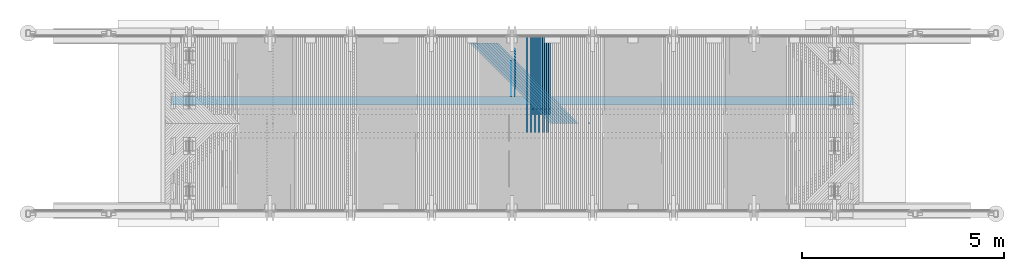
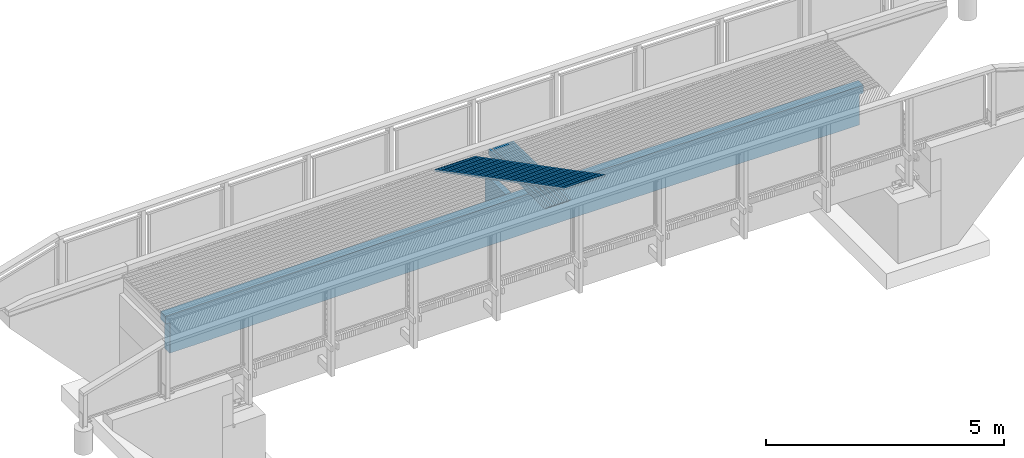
# One storey, part 34 of 65: 27 beams.
"""IFC2X3 building model written with IfcOpenShell, lengths in millimetres."""

from ifc_helpers import new_model, si_unit, frame, origin_with_axes, place, context, subcontext, project, spatial, faceted_brep, material, type_object, element, save


model = new_model("IFC2X3")

# Units and contexts
model_context = context("Model", 3, precision=1e-05, world=origin_with_axes())
body_context = subcontext(model_context, "Body", "Model", "MODEL_VIEW")
ifc_project = project(units=[si_unit("LENGTHUNIT", "METRE", prefix="MILLI"), si_unit("AREAUNIT", "SQUARE_METRE"), si_unit("VOLUMEUNIT", "CUBIC_METRE"), si_unit("MASSUNIT", "GRAM", prefix="KILO"), si_unit("TIMEUNIT", "SECOND"), si_unit("PLANEANGLEUNIT", "RADIAN"), si_unit("SOLIDANGLEUNIT", "STERADIAN"), si_unit("THERMODYNAMICTEMPERATUREUNIT", "DEGREE_CELSIUS"), si_unit("LUMINOUSINTENSITYUNIT", "LUMEN")], contexts=[model_context])

# Site, building, storey
site_placement = place(None, origin_with_axes())
site = spatial("IfcSite", under=ifc_project, at=site_placement, Name="Undefined", CompositionType="ELEMENT")
building_placement = place(site_placement, origin_with_axes())
building = spatial("IfcBuilding", under=site, at=building_placement, Name="Undefined", CompositionType="ELEMENT")
storey_placement = place(building_placement, origin_with_axes())
storey = spatial("IfcBuildingStorey", under=building, at=storey_placement, Name="Undefined", CompositionType="ELEMENT", Elevation=0.0)

# Beams
ifc_material = material(Name="TIMBER/Timber_Undefined")
beam_type_1 = type_object("IfcBeamType", Name="945*140", PredefinedType="NOTDEFINED")
beam_1_placement = place(storey_placement, frame((8000.0, 23937.5, 2542.6979002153), z_axis=(0.0, 0.0, 1.0), x_axis=(0.0, -1.0, 0.0)))
element("IfcBeam", 1, at=beam_1_placement, inside=storey, type_object=beam_type_1, material=ifc_material, Name="PALKKI", ObjectType="945*140", context=body_context, shape_type="Brep", body=[
    faceted_brep([(0.0, 70.0, -472.5), (0.0, 70.0, 472.5), (905.0, 70.0, 472.5), (905.0, 70.0, -472.5), (0.0, -70.0, 472.5), (905.0, -70.0, 472.5), (0.0, -70.0, -472.5), (905.0, -70.0, -472.5)], [[[0, 1, 2, 3]], [[1, 4, 5, 2]], [[4, 6, 7, 5]], [[6, 0, 3, 7]], [[5, 7, 3, 2]], [[6, 4, 1, 0]]]),
])
beam_type_2 = type_object("IfcBeamType", Name="50*50", PredefinedType="NOTDEFINED")
for number, where, z_axis, x_axis, name in (
    (2, (9903.90922166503, 22365.4998996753, 3233.11191274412), (0.707070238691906, 0.706981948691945, -0.0151063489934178), (-0.70714200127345, 0.706948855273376, -0.0131721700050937), "BEAM"),
    (3, (9833.18532878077, 22365.4998996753, 3233.33139353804), (0.707072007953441, 0.706981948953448, -0.0150232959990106), (-0.707140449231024, 0.706948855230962, -0.0132552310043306), "BEAM"),
    (4, (9762.46141060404, 22365.4998996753, 3233.54256705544), (0.707073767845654, 0.706981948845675, -0.0149402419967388), (-0.707138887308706, 0.706948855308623, -0.0133382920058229), "BEAM"),
    (5, (9691.73746811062, 22365.4998996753, 3233.7454332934), (0.707075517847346, 0.706981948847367, -0.0148571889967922), (-0.707137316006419, 0.706948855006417, -0.0134213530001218), "BEAM"),
    (6, (9621.01350227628, 22365.4998996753, 3233.93999224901), (0.707077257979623, 0.706981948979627, -0.0147741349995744), (-0.707135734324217, 0.706948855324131, -0.0135044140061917), "BEAM"),
    (7, (9550.28951407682, 22365.4998996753, 3234.12624391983), (0.707078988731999, 0.706981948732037, -0.0146910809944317), (-0.70713414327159, 0.706948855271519, -0.0135874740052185), "BEAM"),
    (8, (9479.565504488, 22365.4998996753, 3234.30418830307), (0.70708070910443, 0.706981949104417, -0.0146080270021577), (-0.70713254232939, 0.706948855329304, -0.0136705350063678), "BEAM"),
    (9, (9408.8414744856, 22365.4998996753, 3234.4738253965), (0.707082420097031, 0.706981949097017, -0.0145249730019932), (-0.707130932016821, 0.706948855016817, -0.0137535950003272), "BEAM"),
    (10, (9338.11742504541, 22365.4998996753, 3234.63515519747), (0.707084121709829, 0.706981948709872, -0.0144419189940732), (-0.707129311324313, 0.70694885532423, -0.0138366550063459), "BEAM"),
    (11, (9267.39335714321, 22365.4998996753, 3234.78817770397), (0.70708581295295, 0.706981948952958, -0.0143588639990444), (-0.707127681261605, 0.706948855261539, -0.0139197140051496), "BEAM"),
    (12, (9196.66927175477, 22365.4998996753, 3234.93289291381), (0.707087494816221, 0.70698194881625, -0.0142758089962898), (-0.707126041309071, 0.706948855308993, -0.0140027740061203), "BEAM"),
    (13, (9125.94516985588, 22365.4998996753, 3235.06930082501), (0.707089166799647, 0.706981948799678, -0.0141927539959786), (-0.707124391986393, 0.706948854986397, -0.0140858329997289), "BEAM"),
    (14, (9055.22105242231, 22365.4998996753, 3235.1974014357), (0.707090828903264, 0.706981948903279, -0.0141096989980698), (-0.707122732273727, 0.70694885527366, -0.0141688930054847), "BEAM"),
    (15, (8984.49692042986, 22365.4998996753, 3235.31719474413), (0.707092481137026, 0.706981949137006, -0.0140266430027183), (-0.707121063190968, 0.706948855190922, -0.014251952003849), "BEAM"),
):
    element("IfcBeam", number, at=place(storey_placement, frame(where, z_axis=z_axis, x_axis=x_axis)), inside=storey, type_object=beam_type_2, material=ifc_material, Name=name, ObjectType="50*50", context=body_context, shape_type="Brep", body=[
        faceted_brep([(23.5869248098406, 24.9999999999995, -24.9999999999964), (-26.4154158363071, 24.9999999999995, 24.9999999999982), (2802.92643296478, 25.0, 25.0), (2852.92877373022, 25.0000000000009, -25.0), (-25.0011704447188, -25.0, 24.9999999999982), (2804.34067830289, -25.0, 25.0000000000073), (25.0011701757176, -25.0000000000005, -24.9999999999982), (2854.34301907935, -24.9999999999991, -25.0000000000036)], [[[0, 1, 2, 3]], [[1, 4, 5, 2]], [[4, 6, 7, 5]], [[6, 0, 3, 7]], [[5, 7, 3, 2]], [[6, 4, 1, 0]]]),
    ])
beam_type_3 = type_object("IfcBeamType", Name="150*50", PredefinedType="NOTDEFINED")
beam_2_placement = place(storey_placement, frame((8875.35105555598, 24513.4953923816, 3092.51355357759), z_axis=(0.00137347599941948, 0.0199960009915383, 0.999799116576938), x_axis=(2.74690000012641e-05, -0.999800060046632, 0.0199959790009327)))
element("IfcBeam", 16, at=beam_2_placement, inside=storey, type_object=beam_type_3, material=ifc_material, Name="BEAM", ObjectType="150*50", context=body_context, shape_type="Brep", body=[
    faceted_brep([(-1.6778358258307e-07, -24.9999999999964, -74.9999999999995), (-1.6778358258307e-07, 25.0000000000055, -75.0), (2375.00494422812, 25.0000000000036, -75.0), (2375.00494447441, -24.9999999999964, -74.9999999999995), (1.67790858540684e-07, -24.9999999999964, 75.0000000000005), (1.67790858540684e-07, 25.0000000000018, 74.9999999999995), (2150.42515052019, 25.0000000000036, 74.9999999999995), (2510.59248715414, 25.0000000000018, 60.5875433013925), (2510.59248714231, -24.9999999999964, 60.5875430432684), (2150.42514405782, -24.9999999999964, 75.0000000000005)], [[[0, 1, 2, 3]], [[0, 4, 5, 1]], [[2, 1, 5, 6, 7]], [[3, 2, 7, 8]], [[4, 0, 3, 8, 9]], [[5, 4, 9, 6]], [[8, 7, 6, 9]]]),
])
beam_3_placement = place(storey_placement, frame((8925.37102920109, 24513.4953923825, 3092.43652922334), z_axis=(0.00153959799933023, 0.0199960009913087, 0.999798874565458), x_axis=(3.0791000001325e-05, -0.999800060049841, 0.0199959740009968)))
element("IfcBeam", 17, at=beam_3_placement, inside=storey, type_object=beam_type_3, material=ifc_material, Name="BEAM", ObjectType="150*50", context=body_context, shape_type="Brep", body=[
    faceted_brep([(-1.6778358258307e-07, -24.9999999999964, -74.9999999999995), (1.67790858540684e-07, -24.9999999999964, 75.0000000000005), (1.67790858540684e-07, 25.0000000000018, 74.9999999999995), (-1.6778358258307e-07, 25.0000000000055, -75.0), (1789.96936408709, 24.9999999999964, 75.0), (1928.42646328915, 24.9999999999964, -75.0), (1928.42646353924, -25.0, -75.0000000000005), (1789.96936433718, -25.0000000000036, 74.9999999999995)], [[[0, 1, 2, 3]], [[3, 2, 4, 5]], [[0, 3, 5, 6]], [[1, 0, 6, 7]], [[2, 1, 7, 4]], [[5, 4, 7, 6]]]),
])
beam_4_placement = place(storey_placement, frame((8775.33111583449, 24513.4953923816, 3092.65068841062), z_axis=(0.00120735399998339, 0.0199960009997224, 0.999799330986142), x_axis=(2.41470000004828e-05, -0.999800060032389, 0.0199959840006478)))
element("IfcBeam", 18, at=beam_4_placement, inside=storey, type_object=beam_type_3, material=ifc_material, Name="BEAM", ObjectType="150*50", context=body_context, shape_type="Brep", body=[
    faceted_brep([(-1.6778358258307e-07, -24.9999999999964, -74.9999999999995), (-1.6778358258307e-07, 25.0000000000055, -75.0), (2375.00494422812, 25.0000000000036, -75.0), (2375.00494447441, -24.9999999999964, -74.9999999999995), (1.67790858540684e-07, -24.9999999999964, 75.0000000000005), (1.67790858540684e-07, 25.0000000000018, 74.9999999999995), (2150.42515052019, 25.0000000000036, 74.9999999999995), (2510.59248715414, 25.0000000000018, 60.5875433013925), (2510.59248714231, -24.9999999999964, 60.5875430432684), (2150.42514405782, -24.9999999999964, 75.0000000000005)], [[[0, 1, 2, 3]], [[0, 4, 5, 1]], [[2, 1, 5, 6, 7]], [[3, 2, 7, 8]], [[4, 0, 3, 8, 9]], [[5, 4, 9, 6]], [[8, 7, 6, 9]]]),
])
beam_5_placement = place(storey_placement, frame((8825.35110158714, 24513.4953923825, 3092.5819751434), z_axis=(0.00137347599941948, 0.0199960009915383, 0.999799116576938), x_axis=(2.74690000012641e-05, -0.999800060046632, 0.0199959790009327)))
element("IfcBeam", 19, at=beam_5_placement, inside=storey, type_object=beam_type_3, material=ifc_material, Name="BEAM", ObjectType="150*50", context=body_context, shape_type="Brep", body=[
    faceted_brep([(-1.6778358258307e-07, -24.9999999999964, -74.9999999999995), (1.67790858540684e-07, -24.9999999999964, 75.0000000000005), (1.67790858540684e-07, 25.0000000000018, 74.9999999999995), (-1.6778358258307e-07, 25.0000000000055, -75.0), (1789.96936408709, 24.9999999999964, 75.0), (1928.42646328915, 24.9999999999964, -75.0), (1928.42646353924, -25.0, -75.0000000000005), (1789.96936433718, -25.0000000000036, 74.9999999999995)], [[[0, 1, 2, 3]], [[3, 2, 4, 5]], [[0, 3, 5, 6]], [[1, 0, 6, 7]], [[2, 1, 7, 4]], [[5, 4, 7, 6]]]),
])
beam_6_placement = place(storey_placement, frame((8675.31115470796, 24513.4953923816, 3092.77120439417), z_axis=(0.00104123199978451, 0.0199960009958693, 0.99979951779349), x_axis=(2.08240000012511e-05, -0.999800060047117, 0.0199959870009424)))
element("IfcBeam", 20, at=beam_6_placement, inside=storey, type_object=beam_type_3, material=ifc_material, Name="BEAM", ObjectType="150*50", context=body_context, shape_type="Brep", body=[
    faceted_brep([(-1.6778358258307e-07, -24.9999999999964, -74.9999999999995), (-1.6778358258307e-07, 25.0000000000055, -75.0), (2375.00494422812, 25.0000000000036, -75.0), (2375.00494447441, -24.9999999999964, -74.9999999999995), (1.67790858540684e-07, -24.9999999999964, 75.0000000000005), (1.67790858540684e-07, 25.0000000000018, 74.9999999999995), (2150.42515052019, 25.0000000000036, 74.9999999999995), (2510.59248715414, 25.0000000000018, 60.5875433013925), (2510.59248714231, -24.9999999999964, 60.5875430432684), (2150.42514405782, -24.9999999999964, 75.0000000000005)], [[[0, 1, 2, 3]], [[0, 4, 5, 1]], [[2, 1, 5, 6, 7]], [[3, 2, 7, 8]], [[4, 0, 3, 8, 9]], [[5, 4, 9, 6]], [[8, 7, 6, 9]]]),
])
beam_7_placement = place(storey_placement, frame((8725.33115118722, 24513.4953923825, 3092.71080221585), z_axis=(0.00120735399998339, 0.0199960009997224, 0.999799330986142), x_axis=(2.41470000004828e-05, -0.999800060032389, 0.0199959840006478)))
element("IfcBeam", 21, at=beam_7_placement, inside=storey, type_object=beam_type_3, material=ifc_material, Name="BEAM", ObjectType="150*50", context=body_context, shape_type="Brep", body=[
    faceted_brep([(-1.6778358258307e-07, -24.9999999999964, -74.9999999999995), (1.67790858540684e-07, -24.9999999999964, 75.0000000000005), (1.67790858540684e-07, 25.0000000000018, 74.9999999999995), (-1.6778358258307e-07, 25.0000000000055, -75.0), (1789.96936408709, 24.9999999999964, 75.0), (1928.42646328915, 24.9999999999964, -75.0), (1928.42646353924, -25.0, -75.0000000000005), (1789.96936433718, -25.0000000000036, 74.9999999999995)], [[[0, 1, 2, 3]], [[3, 2, 4, 5]], [[0, 3, 5, 6]], [[1, 0, 6, 7]], [[2, 1, 7, 4]], [[5, 4, 7, 6]]]),
])
beam_8_placement = place(storey_placement, frame((8575.29117493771, 24513.4953923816, 3092.8751015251), z_axis=(0.00087510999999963, 0.0199960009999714, 0.999799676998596), x_axis=(1.75020000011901e-05, -0.999800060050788, 0.0199959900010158)))
element("IfcBeam", 22, at=beam_8_placement, inside=storey, type_object=beam_type_3, material=ifc_material, Name="BEAM", ObjectType="150*50", context=body_context, shape_type="Brep", body=[
    faceted_brep([(-1.6778358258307e-07, -24.9999999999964, -74.9999999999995), (-1.6778358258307e-07, 25.0000000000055, -75.0), (2375.00494422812, 25.0000000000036, -75.0), (2375.00494447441, -24.9999999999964, -74.9999999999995), (1.67790858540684e-07, -24.9999999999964, 75.0000000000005), (1.67790858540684e-07, 25.0000000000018, 74.9999999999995), (2150.42515052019, 25.0000000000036, 74.9999999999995), (2510.59248715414, 25.0000000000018, 60.5875433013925), (2510.59248714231, -24.9999999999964, 60.5875430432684), (2150.42520082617, -25.0000000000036, 75.0000000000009)], [[[0, 1, 2, 3]], [[0, 4, 5, 1]], [[2, 1, 5, 6, 7]], [[3, 2, 7, 8]], [[4, 0, 3, 8, 9]], [[5, 4, 9, 6]], [[6, 9, 8, 7]]]),
])
beam_9_placement = place(storey_placement, frame((8625.31118076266, 24513.4953923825, 3092.82301043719), z_axis=(0.00104123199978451, 0.0199960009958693, 0.99979951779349), x_axis=(2.08240000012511e-05, -0.999800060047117, 0.0199959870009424)))
element("IfcBeam", 23, at=beam_9_placement, inside=storey, type_object=beam_type_3, material=ifc_material, Name="BEAM", ObjectType="150*50", context=body_context, shape_type="Brep", body=[
    faceted_brep([(-1.6778358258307e-07, -24.9999999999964, -74.9999999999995), (1.67790858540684e-07, -24.9999999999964, 75.0000000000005), (1.67790858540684e-07, 25.0000000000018, 74.9999999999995), (-1.6778358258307e-07, 25.0000000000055, -75.0), (1789.96936408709, 24.9999999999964, 75.0), (1928.42646328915, 24.9999999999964, -75.0), (1928.42646353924, -25.0, -75.0000000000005), (1789.96936433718, -25.0000000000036, 74.9999999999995)], [[[0, 1, 2, 3]], [[3, 2, 4, 5]], [[0, 3, 5, 6]], [[1, 0, 6, 7]], [[2, 1, 7, 4]], [[5, 4, 7, 6]]]),
])
beam_10_placement = place(storey_placement, frame((8475.27117928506, 24513.4953923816, 3092.96237980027), z_axis=(0.000708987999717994, 0.019996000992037, 0.999799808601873), x_axis=(1.41790000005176e-05, -0.999800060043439, 0.0199959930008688)))
element("IfcBeam", 24, at=beam_10_placement, inside=storey, type_object=beam_type_3, material=ifc_material, Name="BEAM", ObjectType="150*50", context=body_context, shape_type="Brep", body=[
    faceted_brep([(-1.6778358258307e-07, -24.9999999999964, -74.9999999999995), (-1.6778358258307e-07, 25.0000000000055, -75.0), (2375.00494422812, 25.0000000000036, -75.0), (2375.00494447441, -24.9999999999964, -74.9999999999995), (1.67790858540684e-07, -24.9999999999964, 75.0000000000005), (1.67790858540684e-07, 25.0000000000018, 74.9999999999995), (2150.42515052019, 25.0000000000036, 74.9999999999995), (2510.59248715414, 25.0000000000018, 60.5875433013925), (2510.59248714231, -24.9999999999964, 60.5875430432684), (2150.42514405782, -24.9999999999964, 75.0000000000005)], [[[0, 1, 2, 3]], [[0, 4, 5, 1]], [[2, 1, 5, 6, 7]], [[3, 2, 7, 8]], [[4, 0, 3, 8, 9]], [[5, 4, 9, 6]], [[8, 7, 6, 9]]]),
])
beam_11_placement = place(storey_placement, frame((8525.29119307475, 24513.4953923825, 3092.91859980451), z_axis=(0.00087510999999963, 0.0199960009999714, 0.999799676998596), x_axis=(1.75020000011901e-05, -0.999800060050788, 0.0199959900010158)))
element("IfcBeam", 25, at=beam_11_placement, inside=storey, type_object=beam_type_3, material=ifc_material, Name="BEAM", ObjectType="150*50", context=body_context, shape_type="Brep", body=[
    faceted_brep([(-1.6778358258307e-07, -24.9999999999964, -74.9999999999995), (1.67790858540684e-07, -24.9999999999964, 75.0000000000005), (1.67790858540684e-07, 25.0000000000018, 74.9999999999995), (-1.6778358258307e-07, 25.0000000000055, -75.0), (1789.96936408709, 24.9999999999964, 75.0), (1928.42646328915, 24.9999999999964, -75.0), (1928.42646353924, -25.0, -75.0000000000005), (1789.96936433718, -25.0000000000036, 74.9999999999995)], [[[0, 1, 2, 3]], [[3, 2, 4, 5]], [[0, 3, 5, 6]], [[1, 0, 6, 7]], [[2, 1, 7, 4]], [[5, 4, 7, 6]]]),
])
beam_12_placement = place(storey_placement, frame((8375.25117051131, 24513.4953923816, 3093.03303921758), z_axis=(0.000542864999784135, 0.019996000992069, 0.999799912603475), x_axis=(1.08570000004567e-05, -0.999800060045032, 0.0199959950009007)))
element("IfcBeam", 26, at=beam_12_placement, inside=storey, type_object=beam_type_3, material=ifc_material, Name="BEAM", ObjectType="150*50", context=body_context, shape_type="Brep", body=[
    faceted_brep([(-1.6778358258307e-07, -24.9999999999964, -74.9999999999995), (-1.6778358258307e-07, 25.0000000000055, -75.0), (2375.00494422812, 25.0000000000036, -75.0), (2375.00494447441, -24.9999999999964, -74.9999999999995), (1.67790858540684e-07, -24.9999999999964, 75.0000000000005), (1.67790858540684e-07, 25.0000000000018, 74.9999999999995), (2150.42515052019, 25.0000000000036, 74.9999999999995), (2510.59248715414, 25.0000000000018, 60.5875433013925), (2510.59248714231, -24.9999999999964, 60.5875430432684), (2150.42514405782, -24.9999999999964, 75.0000000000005)], [[[0, 1, 2, 3]], [[0, 4, 5, 1]], [[2, 1, 5, 6, 7]], [[3, 2, 7, 8]], [[4, 0, 3, 8, 9]], [[5, 4, 9, 6]], [[8, 7, 6, 9]]]),
])
beam_type_4 = type_object("IfcBeamType", Name="990*215", PredefinedType="NOTDEFINED")
beam_13_placement = place(storey_placement, frame((243.613169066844, 22925.0, 2502.11879463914), z_axis=(0.0, 0.0, 1.0), x_axis=(1.0, 0.0, 0.0)))
element("IfcBeam", 27, at=beam_13_placement, inside=storey, type_object=beam_type_4, material=ifc_material, Name="PALKKI", ObjectType="990*215", context=body_context, shape_type="Brep", body=[
    faceted_brep([(16106.3868309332, 107.5, -494.790894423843), (16106.3868309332, -107.5, -494.790894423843), (16080.5342107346, -107.5, -494.790894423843), (15793.4597682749, -107.5, -494.790894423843), (15506.3868309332, -107.5, -494.958794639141), (15506.3868309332, 107.5, -494.958794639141), (15793.4597682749, 107.5, -494.790894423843), (16080.5342107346, 107.5, -494.790894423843), (16106.3868309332, 107.5, 285.209105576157), (16106.3868309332, -107.5, 285.209105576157), (16206.3868309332, 107.5, 285.209105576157), (16206.3868309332, -107.5, 285.209105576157), (16206.3868309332, 107.5, 485.682039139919), (16206.3868309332, -107.5, 485.682039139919), (-627.370013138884, 107.5, 486.625216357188), (-627.370013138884, -107.5, 486.625216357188), (-316.879497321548, -107.5, 490.87213125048), (-316.879497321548, 107.5, 490.87213125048), (-693.613169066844, -107.5, 485.684940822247), (-693.613169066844, -107.5, 285.209105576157), (-624.563039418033, -107.5, 285.209105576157), (-693.613169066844, 107.5, 485.684940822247), (-693.613169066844, 107.5, 285.209105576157), (-624.563039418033, 107.5, 285.209105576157), (-593.613169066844, 107.5, 285.209105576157), (-593.613169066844, -107.5, 285.209105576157), (-593.613169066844, 107.5, -494.790894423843), (-593.613169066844, -107.5, -494.790894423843), (-303.651924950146, -107.5, -494.790894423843), (-6.38683093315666, -107.5, 494.958794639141), (6.38683093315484, -107.5, -494.958794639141), (-6.38683093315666, 107.5, 494.958794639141), (6.38683093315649, 107.5, -494.790894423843), (304.107903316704, 107.5, 498.885205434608), (316.370645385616, 107.5, -491.038844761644), (-303.651924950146, 107.5, -494.790894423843), (316.370645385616, -107.5, -491.038844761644), (304.107903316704, -107.5, 498.885205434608), (614.604622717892, -107.5, 502.651362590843), (614.604622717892, 107.5, 502.651362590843), (626.356441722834, 107.5, -487.278884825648), (626.356441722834, -107.5, -487.278884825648), (936.344137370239, -107.5, -483.678915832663), (925.103244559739, -107.5, 506.257265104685), (925.103244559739, 107.5, 506.257265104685), (936.344137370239, 107.5, -483.678915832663), (1246.33364975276, 107.5, -480.238938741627), (1246.33364975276, -107.5, -480.238938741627), (1235.60368613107, -107.5, 509.702912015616), (1235.60368613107, 107.5, 509.702912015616), (1546.10586472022, 107.5, 512.988302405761), (1556.32489629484, 107.5, -476.958954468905), (1556.32489629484, -107.5, -476.958954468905), (1546.10586472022, -107.5, 512.988302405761), (1856.60969761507, -107.5, 516.113435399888), (1856.60969761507, 107.5, 516.113435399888), (1866.31779442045, 107.5, -473.838963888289), (1866.31779442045, -107.5, -473.838963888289), (2176.31226155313, -107.5, -470.878967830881), (2167.11510210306, -107.5, 519.078310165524), (2167.11510210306, 107.5, 519.078310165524), (2176.31226155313, 107.5, -470.878967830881), (2486.30821511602, 107.5, -468.078967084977), (2486.30821511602, -107.5, -468.078967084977), (2477.6219954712, -107.5, 521.882925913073), (2477.6219954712, 107.5, 521.882925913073), (2788.13029500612, 107.5, 524.527281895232), (2796.30557253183, 107.5, -465.438962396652), (2796.30557253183, -107.5, -465.438962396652), (2788.13029500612, -107.5, 524.527281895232), (3098.63991799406, -107.5, 527.011377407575), (3098.63991799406, 107.5, 527.011377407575), (3106.30425122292, 107.5, -462.958954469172), (3106.30425122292, -107.5, -462.958954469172), (3416.30416861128, -107.5, -460.638943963), (3409.15078172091, -107.5, 529.335211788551), (3409.15078172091, 107.5, 529.335211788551), (3416.30416861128, 107.5, -460.638943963), (3726.30524211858, 107.5, -458.478931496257), (3726.30524211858, -107.5, -458.478931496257), (3719.66280347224, -107.5, 531.49878441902), (3719.66280347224, 107.5, 531.49878441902), (4030.1759005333, 107.5, 533.502094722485), (4036.3073891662, 107.5, -456.478917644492), (4036.3073891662, -107.5, -456.478917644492), (4030.1759005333, -107.5, 533.502094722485), (4340.68999018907, -107.5, 535.345142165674), (4340.68999018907, 107.5, 535.345142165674), (4346.3105271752, 107.5, -454.638902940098), (4346.3105271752, -107.5, -454.638902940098), (4656.31457356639, -107.5, -452.958887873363), (4651.20498972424, -107.5, 537.027926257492), (4651.20498972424, 107.5, 537.027926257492), (4656.31457356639, 107.5, -452.958887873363), (4966.31944576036, 107.5, -451.438872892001), (4966.31944576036, -107.5, -451.438872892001), (4961.72081642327, -107.5, 538.550446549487), (4961.72081642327, 107.5, 538.550446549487), (5272.23738757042, 107.5, 539.912702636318), (5276.32506117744, 107.5, -450.078858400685), (5276.32506117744, -107.5, -450.078858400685), (5272.23738757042, -107.5, 539.912702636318), (5582.75462044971, -107.5, 541.114694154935), (5582.75462044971, 107.5, 541.114694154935), (5586.33133723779, 107.5, -448.878844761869), (5586.33133723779, -107.5, -448.878844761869), (5896.33819136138, -107.5, -447.838832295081), (5893.27243234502, -107.5, 542.156420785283), (5893.27243234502, 107.5, 542.156420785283), (5896.33819136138, 107.5, -447.838832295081), (6206.34554096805, 107.5, -446.958821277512), (6206.34554096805, -107.5, -446.958821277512), (6203.79074054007, -107.5, 543.037882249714), (6203.79074054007, 107.5, 543.037882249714), (6514.30946231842, 107.5, 543.759078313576), (6516.35330347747, 107.5, -446.238811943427), (6516.35330347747, -107.5, -446.238811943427), (6514.30946231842, -107.5, 543.759078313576), (6824.82851496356, -107.5, 544.320008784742), (6824.82851496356, 107.5, 544.320008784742), (6826.36139630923, 107.5, -445.678804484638), (6826.36139630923, -107.5, -445.678804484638), (7136.36973688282, -107.5, -445.278799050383), (7135.34781575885, -107.5, 544.720673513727), (7135.34781575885, 107.5, 544.720673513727), (7136.36973688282, 107.5, -445.278799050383), (7446.37824261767, 107.5, -445.038795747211), (7446.37824261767, -107.5, -445.038795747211), (7445.86728198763, -107.5, 544.961072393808), (7445.86728198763, 107.5, 544.961072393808), (7756.38683093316, 107.5, 545.041205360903), (7756.38683093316, 107.5, -444.958794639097), (7756.38683093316, -107.5, -444.958794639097), (7756.38683093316, -107.5, 545.041205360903), (8066.90637987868, -107.5, 544.961072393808), (8066.90637987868, 107.5, 544.961072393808), (8066.39541924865, 107.5, -445.038795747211), (8066.39541924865, -107.5, -445.038795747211), (8376.40392498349, -107.5, -445.278799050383), (8377.42584610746, -107.5, 544.720673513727), (8377.42584610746, 107.5, 544.720673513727), (8376.40392498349, 107.5, -445.278799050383), (8686.41226555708, 107.5, -445.678804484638), (8686.41226555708, -107.5, -445.678804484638), (8687.94514690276, -107.5, 544.320008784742), (8687.94514690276, 107.5, 544.320008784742), (8998.46419954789, 107.5, 543.759078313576), (8996.42035838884, 107.5, -446.238811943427), (8996.42035838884, -107.5, -446.238811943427), (8998.46419954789, -107.5, 543.759078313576), (9308.98292132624, -107.5, 543.037882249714), (9308.98292132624, 107.5, 543.037882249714), (9306.42812089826, 107.5, -446.958821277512), (9306.42812089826, -107.5, -446.958821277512), (9616.43547050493, -107.5, -447.838832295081), (9619.50122952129, -107.5, 542.156420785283), (9619.50122952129, 107.5, 542.156420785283), (9616.43547050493, 107.5, -447.838832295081), (9926.44232462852, 107.5, -448.878844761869), (9926.44232462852, -107.5, -448.878844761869), (9930.0190414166, -107.5, 541.114694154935), (9930.0190414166, 107.5, 541.114694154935), (10240.5362742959, 107.5, 539.912702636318), (10236.4486006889, 107.5, -450.078858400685), (10236.4486006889, -107.5, -450.078858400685), (10240.5362742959, -107.5, 539.912702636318), (10551.052845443, -107.5, 538.550446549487), (10551.052845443, 107.5, 538.550446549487), (10546.454216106, 107.5, -451.438872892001), (10546.454216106, -107.5, -451.438872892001), (10856.4590882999, -107.5, -452.958887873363), (10861.5686721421, -107.5, 537.027926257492), (10861.5686721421, 107.5, 537.027926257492), (10856.4590882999, 107.5, -452.958887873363), (11166.4631346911, 107.5, -454.638902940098), (11166.4631346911, -107.5, -454.638902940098), (11172.0836716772, -107.5, 535.345142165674), (11172.0836716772, 107.5, 535.345142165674), (11482.597761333, 107.5, 533.502094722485), (11476.4662727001, 107.5, -456.478917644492), (11476.4662727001, -107.5, -456.478917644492), (11482.597761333, -107.5, 533.502094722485), (11793.1108583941, -107.5, 531.49878441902), (11793.1108583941, 107.5, 531.49878441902), (11786.4684197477, 107.5, -458.478931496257), (11786.4684197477, -107.5, -458.478931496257), (12096.469493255, -107.5, -460.638943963), (12103.6228801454, -107.5, 529.335211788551), (12103.6228801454, 107.5, 529.335211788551), (12096.469493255, 107.5, -460.638943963), (12406.4694106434, 107.5, -462.958954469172), (12406.4694106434, -107.5, -462.958954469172), (12414.1337438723, -107.5, 527.011377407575), (12414.1337438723, 107.5, 527.011377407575), (12724.6433668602, 107.5, 524.527281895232), (12716.4680893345, 107.5, -465.438962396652), (12716.4680893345, -107.5, -465.438962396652), (12724.6433668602, -107.5, 524.527281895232), (13035.1516663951, -107.5, 521.882925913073), (13035.1516663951, 107.5, 521.882925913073), (13026.4654467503, 107.5, -468.078967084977), (13026.4654467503, -107.5, -468.078967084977), (13336.4614003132, -107.5, -470.878967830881), (13345.6585597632, -107.5, 519.078310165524), (13345.6585597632, 107.5, 519.078310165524), (13336.4614003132, 107.5, -470.878967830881), (13646.4558674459, 107.5, -473.838963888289), (13646.4558674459, -107.5, -473.838963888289), (13656.1639642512, -107.5, 516.113435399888), (13656.1639642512, 107.5, 516.113435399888), (13966.6677971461, 107.5, 512.988302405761), (13956.4487655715, 107.5, -476.958954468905), (13956.4487655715, -107.5, -476.958954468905), (13966.6677971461, -107.5, 512.988302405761), (14277.1699757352, -107.5, 509.702912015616), (14277.1699757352, 107.5, 509.702912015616), (14266.4400121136, 107.5, -480.238938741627), (14266.4400121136, -107.5, -480.238938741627), (14576.4295244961, -107.5, -483.678915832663), (14587.6704173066, -107.5, 506.257265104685), (14587.6704173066, 107.5, 506.257265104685), (14576.4295244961, 107.5, -483.678915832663), (14886.4172201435, 107.5, -487.278884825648), (14886.4172201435, -107.5, -487.278884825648), (14898.1690391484, -107.5, 502.651362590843), (14898.1690391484, 107.5, 502.651362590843), (15208.6657585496, 107.5, 498.885205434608), (15196.4030164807, 107.5, -491.038844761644), (15196.4030164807, -107.5, -491.038844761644), (15208.6657585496, -107.5, 498.885205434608), (15519.1604927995, -107.5, 494.958794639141), (15519.1604927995, 107.5, 494.958794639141), (15806.6537751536, -107.5, 491.180342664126), (15806.6537751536, 107.5, 491.180342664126), (16094.1452189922, -107.5, 487.264500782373), (16094.1452189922, 107.5, 487.264500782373)], [[[0, 1, 2, 3, 4, 5, 6, 7]], [[8, 9, 1, 0]], [[10, 11, 9, 8]], [[12, 13, 11, 10]], [[14, 15, 16, 17]], [[15, 18, 19, 20]], [[21, 22, 19, 18]], [[15, 14, 21, 18]], [[21, 14, 23, 22]], [[24, 25, 20, 19, 22, 23]], [[26, 27, 25, 24]], [[16, 15, 20, 25, 27, 28]], [[29, 16, 28, 30]], [[17, 16, 29, 31]], [[32, 31, 33, 34]], [[17, 31, 32, 35]], [[24, 23, 14, 17, 35, 26]], [[32, 30, 28, 27, 26, 35]], [[34, 36, 30, 32]], [[29, 30, 36, 37]], [[31, 29, 37, 33]], [[33, 37, 38, 39]], [[34, 33, 39, 40]], [[36, 34, 40, 41]], [[37, 36, 41, 38]], [[38, 41, 42, 43]], [[39, 38, 43, 44]], [[40, 39, 44, 45]], [[41, 40, 45, 42]], [[42, 45, 46, 47]], [[43, 42, 47, 48]], [[44, 43, 48, 49]], [[45, 44, 49, 46]], [[46, 49, 50, 51]], [[47, 46, 51, 52]], [[48, 47, 52, 53]], [[49, 48, 53, 50]], [[50, 53, 54, 55]], [[51, 50, 55, 56]], [[52, 51, 56, 57]], [[53, 52, 57, 54]], [[54, 57, 58, 59]], [[55, 54, 59, 60]], [[56, 55, 60, 61]], [[57, 56, 61, 58]], [[58, 61, 62, 63]], [[59, 58, 63, 64]], [[60, 59, 64, 65]], [[61, 60, 65, 62]], [[62, 65, 66, 67]], [[63, 62, 67, 68]], [[64, 63, 68, 69]], [[65, 64, 69, 66]], [[66, 69, 70, 71]], [[67, 66, 71, 72]], [[68, 67, 72, 73]], [[69, 68, 73, 70]], [[70, 73, 74, 75]], [[71, 70, 75, 76]], [[72, 71, 76, 77]], [[73, 72, 77, 74]], [[74, 77, 78, 79]], [[75, 74, 79, 80]], [[76, 75, 80, 81]], [[77, 76, 81, 78]], [[78, 81, 82, 83]], [[79, 78, 83, 84]], [[80, 79, 84, 85]], [[81, 80, 85, 82]], [[82, 85, 86, 87]], [[83, 82, 87, 88]], [[84, 83, 88, 89]], [[85, 84, 89, 86]], [[86, 89, 90, 91]], [[87, 86, 91, 92]], [[88, 87, 92, 93]], [[89, 88, 93, 90]], [[90, 93, 94, 95]], [[91, 90, 95, 96]], [[92, 91, 96, 97]], [[93, 92, 97, 94]], [[94, 97, 98, 99]], [[95, 94, 99, 100]], [[96, 95, 100, 101]], [[97, 96, 101, 98]], [[98, 101, 102, 103]], [[99, 98, 103, 104]], [[100, 99, 104, 105]], [[101, 100, 105, 102]], [[102, 105, 106, 107]], [[103, 102, 107, 108]], [[104, 103, 108, 109]], [[105, 104, 109, 106]], [[106, 109, 110, 111]], [[107, 106, 111, 112]], [[108, 107, 112, 113]], [[109, 108, 113, 110]], [[110, 113, 114, 115]], [[111, 110, 115, 116]], [[112, 111, 116, 117]], [[113, 112, 117, 114]], [[114, 117, 118, 119]], [[115, 114, 119, 120]], [[116, 115, 120, 121]], [[117, 116, 121, 118]], [[118, 121, 122, 123]], [[119, 118, 123, 124]], [[120, 119, 124, 125]], [[121, 120, 125, 122]], [[122, 125, 126, 127]], [[123, 122, 127, 128]], [[124, 123, 128, 129]], [[125, 124, 129, 126]], [[126, 129, 130, 131]], [[127, 126, 131, 132]], [[128, 127, 132, 133]], [[129, 128, 133, 130]], [[130, 133, 134, 135]], [[131, 130, 135, 136]], [[132, 131, 136, 137]], [[133, 132, 137, 134]], [[134, 137, 138, 139]], [[135, 134, 139, 140]], [[136, 135, 140, 141]], [[137, 136, 141, 138]], [[138, 141, 142, 143]], [[139, 138, 143, 144]], [[140, 139, 144, 145]], [[141, 140, 145, 142]], [[142, 145, 146, 147]], [[143, 142, 147, 148]], [[144, 143, 148, 149]], [[145, 144, 149, 146]], [[146, 149, 150, 151]], [[147, 146, 151, 152]], [[148, 147, 152, 153]], [[149, 148, 153, 150]], [[150, 153, 154, 155]], [[151, 150, 155, 156]], [[152, 151, 156, 157]], [[153, 152, 157, 154]], [[154, 157, 158, 159]], [[155, 154, 159, 160]], [[156, 155, 160, 161]], [[157, 156, 161, 158]], [[158, 161, 162, 163]], [[159, 158, 163, 164]], [[160, 159, 164, 165]], [[161, 160, 165, 162]], [[162, 165, 166, 167]], [[163, 162, 167, 168]], [[164, 163, 168, 169]], [[165, 164, 169, 166]], [[166, 169, 170, 171]], [[167, 166, 171, 172]], [[168, 167, 172, 173]], [[169, 168, 173, 170]], [[170, 173, 174, 175]], [[171, 170, 175, 176]], [[172, 171, 176, 177]], [[173, 172, 177, 174]], [[174, 177, 178, 179]], [[175, 174, 179, 180]], [[176, 175, 180, 181]], [[177, 176, 181, 178]], [[178, 181, 182, 183]], [[179, 178, 183, 184]], [[180, 179, 184, 185]], [[181, 180, 185, 182]], [[182, 185, 186, 187]], [[183, 182, 187, 188]], [[184, 183, 188, 189]], [[185, 184, 189, 186]], [[186, 189, 190, 191]], [[187, 186, 191, 192]], [[188, 187, 192, 193]], [[189, 188, 193, 190]], [[190, 193, 194, 195]], [[191, 190, 195, 196]], [[192, 191, 196, 197]], [[193, 192, 197, 194]], [[194, 197, 198, 199]], [[195, 194, 199, 200]], [[196, 195, 200, 201]], [[197, 196, 201, 198]], [[198, 201, 202, 203]], [[199, 198, 203, 204]], [[200, 199, 204, 205]], [[201, 200, 205, 202]], [[202, 205, 206, 207]], [[203, 202, 207, 208]], [[204, 203, 208, 209]], [[205, 204, 209, 206]], [[206, 209, 210, 211]], [[207, 206, 211, 212]], [[208, 207, 212, 213]], [[209, 208, 213, 210]], [[210, 213, 214, 215]], [[211, 210, 215, 216]], [[212, 211, 216, 217]], [[213, 212, 217, 214]], [[214, 217, 218, 219]], [[215, 214, 219, 220]], [[216, 215, 220, 221]], [[217, 216, 221, 218]], [[218, 221, 222, 223]], [[219, 218, 223, 224]], [[220, 219, 224, 225]], [[221, 220, 225, 222]], [[222, 225, 226, 227]], [[223, 222, 227, 228]], [[224, 223, 228, 229]], [[225, 224, 229, 226]], [[226, 229, 230, 231]], [[231, 230, 232, 233]], [[233, 232, 234, 235]], [[8, 0, 7, 235, 12, 10]], [[233, 235, 7, 6]], [[231, 233, 6, 5]], [[227, 226, 231, 5]], [[228, 227, 5, 4]], [[229, 228, 4, 230]], [[232, 230, 4, 3]], [[234, 232, 3, 2]], [[234, 2, 1, 9, 11, 13]], [[235, 234, 13, 12]]]),
])

save(model, "model.ifc")
